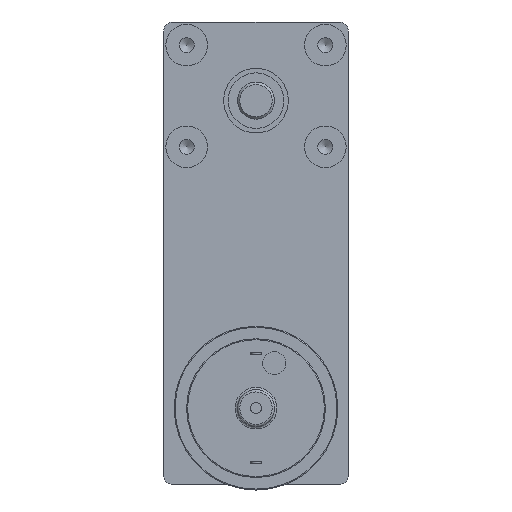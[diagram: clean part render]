
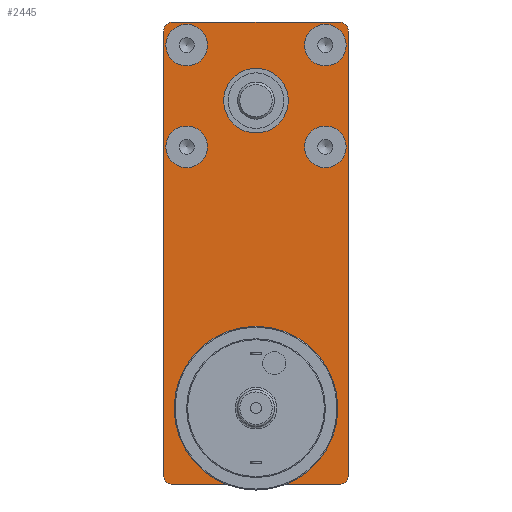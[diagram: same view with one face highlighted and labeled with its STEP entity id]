
A CAD part, front view. The second image highlights one B-rep face of the part: STEP entity #2445.
In plain terms, the highlighted planar face has unit normal (0, -1, 0).
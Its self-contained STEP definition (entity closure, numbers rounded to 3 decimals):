
#597=CARTESIAN_POINT('',(20.,0.3,-81.));
#598=VERTEX_POINT('',#597);
#605=CARTESIAN_POINT('',(18.,0.3,-83.0));
#606=VERTEX_POINT('',#605);
#607=CARTESIAN_POINT('',(18.,0.3,-81.));
#608=DIRECTION('',(0.0,1.0,0.0));
#609=DIRECTION('',(0.707,0.0,-0.707));
#610=AXIS2_PLACEMENT_3D('',#607,#608,#609);
#611=CIRCLE('',#610,2.);
#612=EDGE_CURVE('',#598,#606,#611,.T.);
#629=CARTESIAN_POINT('',(20.0,0.3,15.0));
#630=VERTEX_POINT('',#629);
#637=CARTESIAN_POINT('',(20.0,0.3,15.));
#638=DIRECTION('',(0.0,0.0,-1.0));
#639=VECTOR('',#638,96.0);
#640=LINE('',#637,#639);
#641=EDGE_CURVE('',#630,#598,#640,.T.);
#678=CARTESIAN_POINT('',(18.0,0.3,17.0));
#679=VERTEX_POINT('',#678);
#686=CARTESIAN_POINT('',(18.0,0.3,15.0));
#687=DIRECTION('',(0.0,1.0,0.0));
#688=DIRECTION('',(0.707,0.0,0.707));
#689=AXIS2_PLACEMENT_3D('',#686,#687,#688);
#690=CIRCLE('',#689,2.0);
#691=EDGE_CURVE('',#679,#630,#690,.T.);
#775=CARTESIAN_POINT('',(-18.0,0.3,17.0));
#776=VERTEX_POINT('',#775);
#783=CARTESIAN_POINT('',(-18.0,0.3,17.0));
#784=DIRECTION('',(1.0,0.0,0.0));
#785=VECTOR('',#784,36.0);
#786=LINE('',#783,#785);
#787=EDGE_CURVE('',#776,#679,#786,.T.);
#2069=CARTESIAN_POINT('',(6.6,0.3,-66.5));
#2070=VERTEX_POINT('',#2069);
#2071=CARTESIAN_POINT('',(8.0,0.3,-66.5));
#2072=DIRECTION('',(0.0,1.0,0.0));
#2073=DIRECTION('',(1.0,0.0,0.0));
#2074=AXIS2_PLACEMENT_3D('',#2071,#2072,#2073);
#2075=CIRCLE('',#2074,1.4);
#2076=EDGE_CURVE('',#2070,#2070,#2075,.T.);
#2179=CARTESIAN_POINT('',(-9.4,0.3,-66.5));
#2180=VERTEX_POINT('',#2179);
#2181=CARTESIAN_POINT('',(-8.0,0.3,-66.5));
#2182=DIRECTION('',(0.0,1.0,0.0));
#2183=DIRECTION('',(1.0,0.0,0.0));
#2184=AXIS2_PLACEMENT_3D('',#2181,#2182,#2183);
#2185=CIRCLE('',#2184,1.4);
#2186=EDGE_CURVE('',#2180,#2180,#2185,.T.);
#2222=CARTESIAN_POINT('',(-20.,0.3,-81.));
#2223=VERTEX_POINT('',#2222);
#2230=CARTESIAN_POINT('',(-20.0,0.3,15.));
#2231=VERTEX_POINT('',#2230);
#2232=CARTESIAN_POINT('',(-20.,0.3,-81.0));
#2233=DIRECTION('',(0.0,0.0,1.0));
#2234=VECTOR('',#2233,96.0);
#2235=LINE('',#2232,#2234);
#2236=EDGE_CURVE('',#2223,#2231,#2235,.T.);
#2254=CARTESIAN_POINT('',(-18.0,0.3,15.));
#2255=DIRECTION('',(0.0,1.0,0.0));
#2256=DIRECTION('',(-0.707,0.0,0.707));
#2257=AXIS2_PLACEMENT_3D('',#2254,#2255,#2256);
#2258=CIRCLE('',#2257,2.0);
#2259=EDGE_CURVE('',#2231,#776,#2258,.T.);
#2329=CARTESIAN_POINT('',(7.,0.3,0.));
#2330=VERTEX_POINT('',#2329);
#2331=CARTESIAN_POINT('',(0.0,0.3,0.0));
#2332=DIRECTION('',(0.0,1.0,0.0));
#2333=DIRECTION('',(-1.0,0.0,0.0));
#2334=AXIS2_PLACEMENT_3D('',#2331,#2332,#2333);
#2335=CIRCLE('',#2334,7.);
#2336=EDGE_CURVE('',#2330,#2330,#2335,.T.);
#2353=CARTESIAN_POINT('',(0.0,0.3,-33.));
#2354=DIRECTION('',(0.0,1.0,0.0));
#2355=DIRECTION('',(0.0,0.0,1.0));
#2356=AXIS2_PLACEMENT_3D('',#2353,#2354,#2355);
#2357=PLANE('',#2356);
#2358=ORIENTED_EDGE('',*,*,#691,.F.);
#2359=ORIENTED_EDGE('',*,*,#787,.F.);
#2360=ORIENTED_EDGE('',*,*,#2259,.F.);
#2361=ORIENTED_EDGE('',*,*,#2236,.F.);
#2362=CARTESIAN_POINT('',(-18.,0.3,-83.0));
#2363=VERTEX_POINT('',#2362);
#2364=CARTESIAN_POINT('',(-18.,0.3,-81.));
#2365=DIRECTION('',(0.0,1.,0.0));
#2366=DIRECTION('',(-0.707,0.0,-0.707));
#2367=AXIS2_PLACEMENT_3D('',#2364,#2365,#2366);
#2368=CIRCLE('',#2367,2.);
#2369=EDGE_CURVE('',#2363,#2223,#2368,.T.);
#2370=ORIENTED_EDGE('',*,*,#2369,.F.);
#2371=CARTESIAN_POINT('',(18.,0.3,-83.0));
#2372=DIRECTION('',(-1.0,0.0,0.0));
#2373=VECTOR('',#2372,36.);
#2374=LINE('',#2371,#2373);
#2375=EDGE_CURVE('',#606,#2363,#2374,.T.);
#2376=ORIENTED_EDGE('',*,*,#2375,.F.);
#2377=ORIENTED_EDGE('',*,*,#612,.F.);
#2378=ORIENTED_EDGE('',*,*,#641,.F.);
#2379=EDGE_LOOP('',(#2358,#2359,#2360,#2361,#2370,#2376,#2377,#2378));
#2380=FACE_OUTER_BOUND('',#2379,.T.);
#2381=ORIENTED_EDGE('',*,*,#2076,.T.);
#2382=EDGE_LOOP('',(#2381));
#2383=FACE_BOUND('',#2382,.T.);
#2384=ORIENTED_EDGE('',*,*,#2186,.T.);
#2385=EDGE_LOOP('',(#2384));
#2386=FACE_BOUND('',#2385,.T.);
#2387=CARTESIAN_POINT('',(-10.5,0.3,12.));
#2388=VERTEX_POINT('',#2387);
#2389=CARTESIAN_POINT('',(-15.0,0.3,12.));
#2390=DIRECTION('',(0.0,-1.0,0.0));
#2391=DIRECTION('',(-1.0,0.0,0.0));
#2392=AXIS2_PLACEMENT_3D('',#2389,#2390,#2391);
#2393=CIRCLE('',#2392,4.5);
#2394=EDGE_CURVE('',#2388,#2388,#2393,.T.);
#2395=ORIENTED_EDGE('',*,*,#2394,.F.);
#2396=EDGE_LOOP('',(#2395));
#2397=FACE_BOUND('',#2396,.T.);
#2398=CARTESIAN_POINT('',(-10.5,0.3,-10.0));
#2399=VERTEX_POINT('',#2398);
#2400=CARTESIAN_POINT('',(-15.0,0.3,-10.0));
#2401=DIRECTION('',(0.0,-1.0,0.0));
#2402=DIRECTION('',(-1.0,0.0,0.0));
#2403=AXIS2_PLACEMENT_3D('',#2400,#2401,#2402);
#2404=CIRCLE('',#2403,4.5);
#2405=EDGE_CURVE('',#2399,#2399,#2404,.T.);
#2406=ORIENTED_EDGE('',*,*,#2405,.F.);
#2407=EDGE_LOOP('',(#2406));
#2408=FACE_BOUND('',#2407,.T.);
#2409=CARTESIAN_POINT('',(19.5,0.3,-10.0));
#2410=VERTEX_POINT('',#2409);
#2411=CARTESIAN_POINT('',(15.0,0.3,-10.0));
#2412=DIRECTION('',(0.0,-1.0,0.0));
#2413=DIRECTION('',(-1.0,0.0,0.0));
#2414=AXIS2_PLACEMENT_3D('',#2411,#2412,#2413);
#2415=CIRCLE('',#2414,4.5);
#2416=EDGE_CURVE('',#2410,#2410,#2415,.T.);
#2417=ORIENTED_EDGE('',*,*,#2416,.F.);
#2418=EDGE_LOOP('',(#2417));
#2419=FACE_BOUND('',#2418,.T.);
#2420=CARTESIAN_POINT('',(19.5,0.3,12.));
#2421=VERTEX_POINT('',#2420);
#2422=CARTESIAN_POINT('',(15.0,0.3,12.));
#2423=DIRECTION('',(0.0,-1.0,0.0));
#2424=DIRECTION('',(-1.0,0.0,0.0));
#2425=AXIS2_PLACEMENT_3D('',#2422,#2423,#2424);
#2426=CIRCLE('',#2425,4.5);
#2427=EDGE_CURVE('',#2421,#2421,#2426,.T.);
#2428=ORIENTED_EDGE('',*,*,#2427,.F.);
#2429=EDGE_LOOP('',(#2428));
#2430=FACE_BOUND('',#2429,.T.);
#2431=CARTESIAN_POINT('',(5.0,0.3,-66.5));
#2432=VERTEX_POINT('',#2431);
#2433=CARTESIAN_POINT('',(0.0,0.3,-66.5));
#2434=DIRECTION('',(0.0,1.0,0.0));
#2435=DIRECTION('',(-1.0,0.0,0.0));
#2436=AXIS2_PLACEMENT_3D('',#2433,#2434,#2435);
#2437=CIRCLE('',#2436,5.0);
#2438=EDGE_CURVE('',#2432,#2432,#2437,.T.);
#2439=ORIENTED_EDGE('',*,*,#2438,.T.);
#2440=EDGE_LOOP('',(#2439));
#2441=FACE_BOUND('',#2440,.T.);
#2442=ORIENTED_EDGE('',*,*,#2336,.T.);
#2443=EDGE_LOOP('',(#2442));
#2444=FACE_BOUND('',#2443,.T.);
#2445=ADVANCED_FACE('',(#2380,#2383,#2386,#2397,#2408,#2419,#2430,#2441,#2444),#2357,.F.);
